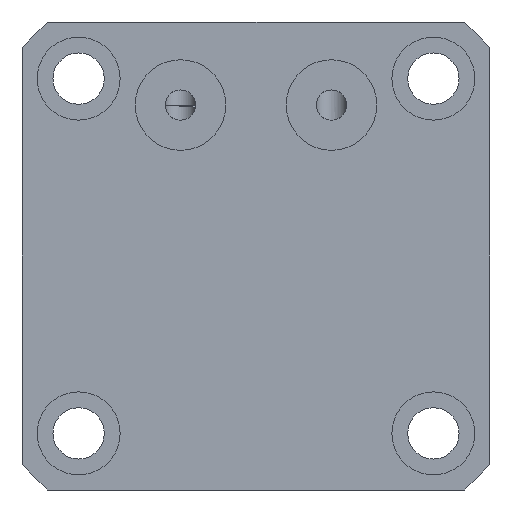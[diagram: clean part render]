
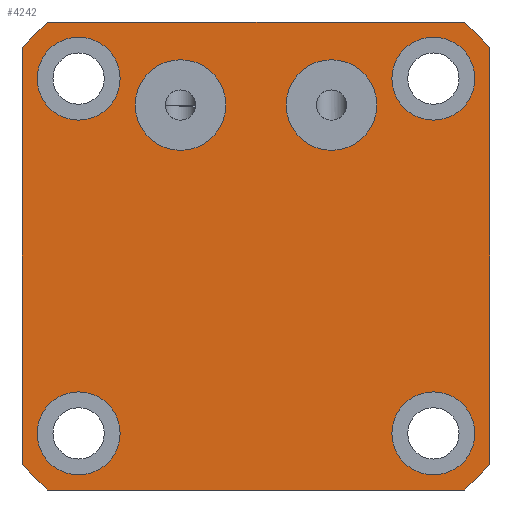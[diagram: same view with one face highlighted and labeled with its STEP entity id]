
A CAD part, left-side view. The second image highlights one B-rep face of the part: STEP entity #4242.
In plain terms, the highlighted planar face has unit normal (-1, 0, 0).
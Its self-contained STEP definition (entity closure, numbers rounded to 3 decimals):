
#4242=ADVANCED_FACE('',(#5180,#5181,#5182,#5183,#5184,#5185,#5186),#4794,
 .F.);
#4794=PLANE('',#13985);
#5180=FACE_BOUND('',#5397,.T.);
#5181=FACE_BOUND('',#5398,.T.);
#5182=FACE_BOUND('',#5399,.T.);
#5183=FACE_BOUND('',#5400,.T.);
#5184=FACE_BOUND('',#5401,.T.);
#5185=FACE_BOUND('',#5402,.T.);
#5186=FACE_BOUND('',#5403,.T.);
#5397=EDGE_LOOP('',(#6314,#6315,#6316,#6317,#6318,#6319,#6320,#6321));
#5398=EDGE_LOOP('',(#6322));
#5399=EDGE_LOOP('',(#6323));
#5400=EDGE_LOOP('',(#6324));
#5401=EDGE_LOOP('',(#6325));
#5402=EDGE_LOOP('',(#6326));
#5403=EDGE_LOOP('',(#6327));
#6040=CIRCLE('',#13898,6.);
#6042=CIRCLE('',#13901,6.);
#6044=CIRCLE('',#13904,5.5);
#6046=CIRCLE('',#13907,5.5);
#6048=CIRCLE('',#13910,5.5);
#6050=CIRCLE('',#13913,5.5);
#6086=CIRCLE('',#13981,41.5);
#6087=CIRCLE('',#13982,41.5);
#6088=CIRCLE('',#13983,41.5);
#6089=CIRCLE('',#13984,41.5);
#6314=ORIENTED_EDGE('',*,*,#10463,.F.);
#6315=ORIENTED_EDGE('',*,*,#10464,.F.);
#6316=ORIENTED_EDGE('',*,*,#10465,.F.);
#6317=ORIENTED_EDGE('',*,*,#10466,.F.);
#6318=ORIENTED_EDGE('',*,*,#10467,.F.);
#6319=ORIENTED_EDGE('',*,*,#10344,.F.);
#6320=ORIENTED_EDGE('',*,*,#10468,.F.);
#6321=ORIENTED_EDGE('',*,*,#10461,.F.);
#6322=ORIENTED_EDGE('',*,*,#10346,.F.);
#6323=ORIENTED_EDGE('',*,*,#10348,.F.);
#6324=ORIENTED_EDGE('',*,*,#10350,.F.);
#6325=ORIENTED_EDGE('',*,*,#10352,.F.);
#6326=ORIENTED_EDGE('',*,*,#10354,.F.);
#6327=ORIENTED_EDGE('',*,*,#10356,.F.);
#9270=VERTEX_POINT('',#16618);
#9271=VERTEX_POINT('',#16620);
#9272=VERTEX_POINT('',#16624);
#9274=VERTEX_POINT('',#16629);
#9276=VERTEX_POINT('',#16634);
#9278=VERTEX_POINT('',#16639);
#9280=VERTEX_POINT('',#16644);
#9282=VERTEX_POINT('',#16649);
#9368=VERTEX_POINT('',#19617);
#9369=VERTEX_POINT('',#19619);
#9370=VERTEX_POINT('',#19623);
#9371=VERTEX_POINT('',#19625);
#9372=VERTEX_POINT('',#19627);
#9373=VERTEX_POINT('',#19629);
#10344=EDGE_CURVE('',#9270,#9271,#11895,.T.);
#10346=EDGE_CURVE('',#9272,#9272,#6040,.T.);
#10348=EDGE_CURVE('',#9274,#9274,#6042,.T.);
#10350=EDGE_CURVE('',#9276,#9276,#6044,.T.);
#10352=EDGE_CURVE('',#9278,#9278,#6046,.T.);
#10354=EDGE_CURVE('',#9280,#9280,#6048,.T.);
#10356=EDGE_CURVE('',#9282,#9282,#6050,.T.);
#10461=EDGE_CURVE('',#9368,#9369,#11899,.T.);
#10463=EDGE_CURVE('',#9370,#9368,#6086,.T.);
#10464=EDGE_CURVE('',#9371,#9370,#11901,.T.);
#10465=EDGE_CURVE('',#9372,#9371,#6087,.T.);
#10466=EDGE_CURVE('',#9373,#9372,#11902,.T.);
#10467=EDGE_CURVE('',#9271,#9373,#6088,.T.);
#10468=EDGE_CURVE('',#9369,#9270,#6089,.T.);
#11895=LINE('',#16619,#12840);
#11899=LINE('',#19618,#12844);
#11901=LINE('',#19624,#12846);
#11902=LINE('',#19628,#12847);
#12840=VECTOR('',#14457,1.);
#12844=VECTOR('',#14627,1.);
#12846=VECTOR('',#14633,1.);
#12847=VECTOR('',#14636,1.);
#13898=AXIS2_PLACEMENT_3D('',#16623,#14461,#14462);
#13901=AXIS2_PLACEMENT_3D('',#16628,#14467,#14468);
#13904=AXIS2_PLACEMENT_3D('',#16633,#14473,#14474);
#13907=AXIS2_PLACEMENT_3D('',#16638,#14479,#14480);
#13910=AXIS2_PLACEMENT_3D('',#16643,#14485,#14486);
#13913=AXIS2_PLACEMENT_3D('',#16648,#14491,#14492);
#13981=AXIS2_PLACEMENT_3D('',#19622,#14631,#14632);
#13982=AXIS2_PLACEMENT_3D('',#19626,#14634,#14635);
#13983=AXIS2_PLACEMENT_3D('',#19630,#14637,#14638);
#13984=AXIS2_PLACEMENT_3D('',#19631,#14639,#14640);
#13985=AXIS2_PLACEMENT_3D('',#19632,#14641,#14642);
#14457=DIRECTION('',(0.,1.,0.));
#14461=DIRECTION('',(-1.,0.,0.));
#14462=DIRECTION('',(0.,0.,1.));
#14467=DIRECTION('',(-1.,0.,0.));
#14468=DIRECTION('',(0.,0.,1.));
#14473=DIRECTION('',(-1.,0.,0.));
#14474=DIRECTION('',(0.,0.,1.));
#14479=DIRECTION('',(-1.,0.,0.));
#14480=DIRECTION('',(0.,0.,1.));
#14485=DIRECTION('',(-1.,0.,0.));
#14486=DIRECTION('',(0.,0.,1.));
#14491=DIRECTION('',(-1.,0.,0.));
#14492=DIRECTION('',(0.,0.,1.));
#14627=DIRECTION('',(0.,0.,-1.));
#14631=DIRECTION('',(1.,0.,0.));
#14632=DIRECTION('',(0.,0.,-1.));
#14633=DIRECTION('',(0.,-1.,0.));
#14634=DIRECTION('',(1.,0.,0.));
#14635=DIRECTION('',(0.,0.,-1.));
#14636=DIRECTION('',(0.,0.,1.));
#14637=DIRECTION('',(1.,0.,0.));
#14638=DIRECTION('',(0.,0.,-1.));
#14639=DIRECTION('',(1.,0.,0.));
#14640=DIRECTION('',(0.,0.,-1.));
#14641=DIRECTION('',(1.,0.,0.));
#14642=DIRECTION('',(0.,0.,1.));
#16618=CARTESIAN_POINT('',(0.,3.409,-62.));
#16619=CARTESIAN_POINT('',(0.,31.,-62.));
#16620=CARTESIAN_POINT('',(0.,58.591,-62.));
#16623=CARTESIAN_POINT('',(0.,41.,-11.));
#16624=CARTESIAN_POINT('',(0.,41.,-5.));
#16628=CARTESIAN_POINT('',(0.,21.,-11.));
#16629=CARTESIAN_POINT('',(0.,21.,-5.));
#16633=CARTESIAN_POINT('',(0.,7.5,-54.5));
#16634=CARTESIAN_POINT('',(0.,7.5,-49.));
#16638=CARTESIAN_POINT('',(0.,7.5,-7.5));
#16639=CARTESIAN_POINT('',(0.,7.5,-2.));
#16643=CARTESIAN_POINT('',(0.,54.5,-7.5));
#16644=CARTESIAN_POINT('',(0.,54.5,-2.));
#16648=CARTESIAN_POINT('',(0.,54.5,-54.5));
#16649=CARTESIAN_POINT('',(0.,54.5,-49.));
#19617=CARTESIAN_POINT('',(0.,0.,-3.409));
#19618=CARTESIAN_POINT('',(0.,0.,-6.));
#19619=CARTESIAN_POINT('',(0.,0.,-58.591));
#19622=CARTESIAN_POINT('',(0.,31.,-31.));
#19623=CARTESIAN_POINT('',(0.,3.409,0.));
#19624=CARTESIAN_POINT('',(0.,31.,0.));
#19625=CARTESIAN_POINT('',(0.,58.591,0.));
#19626=CARTESIAN_POINT('',(0.,31.,-31.));
#19627=CARTESIAN_POINT('',(0.,62.,-3.409));
#19628=CARTESIAN_POINT('',(0.,62.,-31.));
#19629=CARTESIAN_POINT('',(0.,62.,-58.591));
#19630=CARTESIAN_POINT('',(0.,31.,-31.));
#19631=CARTESIAN_POINT('',(0.,31.,-31.));
#19632=CARTESIAN_POINT('',(0.,31.,-31.));
